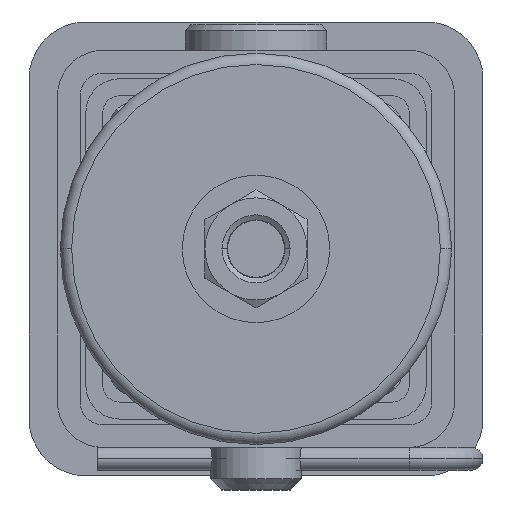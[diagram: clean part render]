
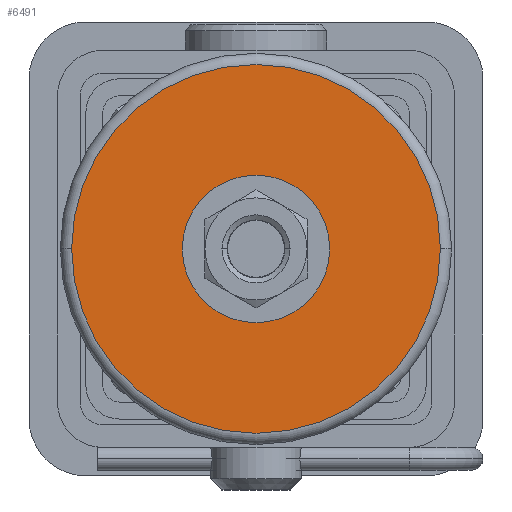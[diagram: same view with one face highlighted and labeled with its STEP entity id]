
A CAD part, front view. The second image highlights one B-rep face of the part: STEP entity #6491.
In plain terms, the highlighted planar face has unit normal (0, -1, 0).
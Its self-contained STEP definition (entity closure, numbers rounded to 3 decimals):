
#159 = DIRECTION ( 'NONE',  ( 0., 0., -1. ) ) ;
#251 = EDGE_LOOP ( 'NONE', ( #4749, #10042 ) ) ;
#385 = AXIS2_PLACEMENT_3D ( 'NONE', #391, #10536, #159 ) ;
#391 = CARTESIAN_POINT ( 'NONE',  ( 0., -18., 0. ) ) ;
#584 = EDGE_CURVE ( 'NONE', #3423, #3917, #2359, .T. ) ;
#1298 = FACE_BOUND ( 'NONE', #8690, .T. ) ;
#1418 = PLANE ( 'NONE',  #9972 ) ;
#1544 = ORIENTED_EDGE ( 'NONE', *, *, #3024, .F. ) ;
#1992 = CARTESIAN_POINT ( 'NONE',  ( 0., -18., 32.5 ) ) ;
#2019 = CARTESIAN_POINT ( 'NONE',  ( 0., -18., -32.5 ) ) ;
#2244 = DIRECTION ( 'NONE',  ( 0., -1., 0. ) ) ;
#2359 = CIRCLE ( 'NONE', #385, 32.5 ) ;
#2510 = AXIS2_PLACEMENT_3D ( 'NONE', #6216, #2244, #10759 ) ;
#3024 = EDGE_CURVE ( 'NONE', #6709, #4188, #4298, .T. ) ;
#3423 = VERTEX_POINT ( 'NONE', #1992 ) ;
#3637 = EDGE_CURVE ( 'NONE', #4188, #6709, #5599, .T. ) ;
#3877 = CARTESIAN_POINT ( 'NONE',  ( 0., -18., 0. ) ) ;
#3917 = VERTEX_POINT ( 'NONE', #2019 ) ;
#3997 = DIRECTION ( 'NONE',  ( 0., -1., 0. ) ) ;
#4188 = VERTEX_POINT ( 'NONE', #9399 ) ;
#4298 = CIRCLE ( 'NONE', #7156, 13. ) ;
#4588 = DIRECTION ( 'NONE',  ( 0., -1., 0. ) ) ;
#4749 = ORIENTED_EDGE ( 'NONE', *, *, #6932, .T. ) ;
#5037 = AXIS2_PLACEMENT_3D ( 'NONE', #3877, #4588, #10619 ) ;
#5599 = CIRCLE ( 'NONE', #5037, 13. ) ;
#5723 = DIRECTION ( 'NONE',  ( 0., -1., 0. ) ) ;
#6216 = CARTESIAN_POINT ( 'NONE',  ( 0., -18., 0. ) ) ;
#6402 = FACE_OUTER_BOUND ( 'NONE', #251, .T. ) ;
#6491 = ADVANCED_FACE ( 'NONE', ( #6402, #1298 ), #1418, .T. ) ;
#6709 = VERTEX_POINT ( 'NONE', #10231 ) ;
#6926 = CIRCLE ( 'NONE', #2510, 32.5 ) ;
#6932 = EDGE_CURVE ( 'NONE', #3917, #3423, #6926, .T. ) ;
#7156 = AXIS2_PLACEMENT_3D ( 'NONE', #8127, #3997, #7167 ) ;
#7167 = DIRECTION ( 'NONE',  ( 0., 0., -1. ) ) ;
#7458 = CARTESIAN_POINT ( 'NONE',  ( 34.5, -18., 0. ) ) ;
#8127 = CARTESIAN_POINT ( 'NONE',  ( 0., -18., 0. ) ) ;
#8690 = EDGE_LOOP ( 'NONE', ( #9982, #1544 ) ) ;
#9048 = DIRECTION ( 'NONE',  ( 0., 0., -1. ) ) ;
#9399 = CARTESIAN_POINT ( 'NONE',  ( 0., -18., -13. ) ) ;
#9972 = AXIS2_PLACEMENT_3D ( 'NONE', #7458, #5723, #9048 ) ;
#9982 = ORIENTED_EDGE ( 'NONE', *, *, #3637, .F. ) ;
#10042 = ORIENTED_EDGE ( 'NONE', *, *, #584, .T. ) ;
#10231 = CARTESIAN_POINT ( 'NONE',  ( 0., -18., 13. ) ) ;
#10536 = DIRECTION ( 'NONE',  ( 0., -1., 0. ) ) ;
#10619 = DIRECTION ( 'NONE',  ( 0., 0., -1. ) ) ;
#10759 = DIRECTION ( 'NONE',  ( 0., 0., -1. ) ) ;
